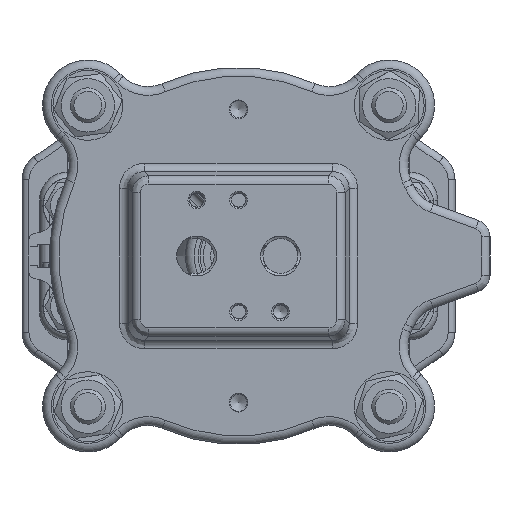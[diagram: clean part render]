
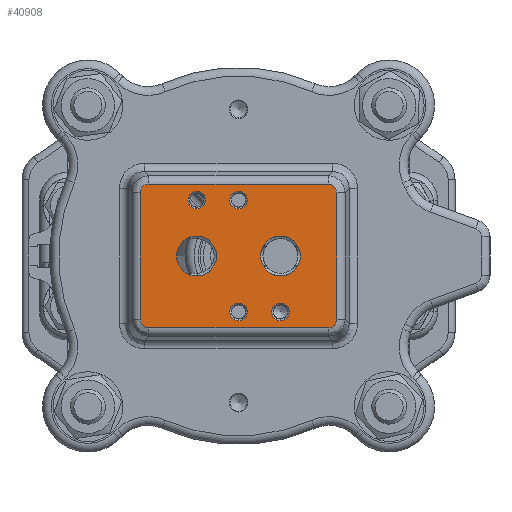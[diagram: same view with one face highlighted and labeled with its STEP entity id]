
A CAD part, front view. The second image highlights one B-rep face of the part: STEP entity #40908.
In plain terms, the highlighted planar face has unit normal (0, -1, 0).
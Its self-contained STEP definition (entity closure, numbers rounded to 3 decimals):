
#379=ELLIPSE('',#44609,2.673,2.5);
#380=ELLIPSE('',#44610,2.673,2.5);
#381=ELLIPSE('',#44611,2.673,2.5);
#382=ELLIPSE('',#44612,2.673,2.5);
#3316=LINE('',#69776,#5327);
#3317=LINE('',#69780,#5328);
#3318=LINE('',#69784,#5329);
#3319=LINE('',#69787,#5330);
#5327=VECTOR('',#52845,10.);
#5328=VECTOR('',#52848,10.);
#5329=VECTOR('',#52851,10.);
#5330=VECTOR('',#52854,10.);
#6966=FACE_BOUND('',#10571,.T.);
#6967=FACE_BOUND('',#10572,.T.);
#6968=FACE_BOUND('',#10573,.T.);
#6969=FACE_BOUND('',#10574,.T.);
#6970=FACE_BOUND('',#10575,.T.);
#6971=FACE_BOUND('',#10576,.T.);
#8012=FACE_OUTER_BOUND('',#10570,.T.);
#10570=EDGE_LOOP('',(#29873,#29874,#29875,#29876,#29877,#29878,#29879,#29880));
#10571=EDGE_LOOP('',(#29881,#29882));
#10572=EDGE_LOOP('',(#29883,#29884));
#10573=EDGE_LOOP('',(#29885));
#10574=EDGE_LOOP('',(#29886));
#10575=EDGE_LOOP('',(#29887));
#10576=EDGE_LOOP('',(#29888));
#13285=CIRCLE('',#44479,5.723);
#13286=CIRCLE('',#44480,5.723);
#13287=CIRCLE('',#44482,5.723);
#13288=CIRCLE('',#44483,5.723);
#13379=CIRCLE('',#44607,2.5);
#13380=CIRCLE('',#44613,2.5);
#13381=CIRCLE('',#44614,2.5);
#13382=CIRCLE('',#44615,2.5);
#16775=VERTEX_POINT('',#69130);
#16776=VERTEX_POINT('',#69132);
#16777=VERTEX_POINT('',#69136);
#16778=VERTEX_POINT('',#69138);
#16879=VERTEX_POINT('',#69768);
#16880=VERTEX_POINT('',#69772);
#16881=VERTEX_POINT('',#69773);
#16882=VERTEX_POINT('',#69775);
#16883=VERTEX_POINT('',#69777);
#16884=VERTEX_POINT('',#69779);
#16885=VERTEX_POINT('',#69781);
#16886=VERTEX_POINT('',#69783);
#16887=VERTEX_POINT('',#69785);
#16888=VERTEX_POINT('',#69788);
#16889=VERTEX_POINT('',#69790);
#16890=VERTEX_POINT('',#69792);
#21382=EDGE_CURVE('',#16776,#16775,#13285,.T.);
#21383=EDGE_CURVE('',#16775,#16776,#13286,.T.);
#21385=EDGE_CURVE('',#16778,#16777,#13287,.T.);
#21386=EDGE_CURVE('',#16777,#16778,#13288,.T.);
#21522=EDGE_CURVE('',#16879,#16879,#13379,.T.);
#21523=EDGE_CURVE('',#16880,#16881,#379,.T.);
#21524=EDGE_CURVE('',#16882,#16880,#3316,.T.);
#21525=EDGE_CURVE('',#16883,#16882,#380,.T.);
#21526=EDGE_CURVE('',#16884,#16883,#3317,.T.);
#21527=EDGE_CURVE('',#16885,#16884,#381,.T.);
#21528=EDGE_CURVE('',#16886,#16885,#3318,.T.);
#21529=EDGE_CURVE('',#16887,#16886,#382,.T.);
#21530=EDGE_CURVE('',#16881,#16887,#3319,.T.);
#21531=EDGE_CURVE('',#16888,#16888,#13380,.T.);
#21532=EDGE_CURVE('',#16889,#16889,#13381,.T.);
#21533=EDGE_CURVE('',#16890,#16890,#13382,.T.);
#29873=ORIENTED_EDGE('',*,*,#21523,.F.);
#29874=ORIENTED_EDGE('',*,*,#21524,.F.);
#29875=ORIENTED_EDGE('',*,*,#21525,.F.);
#29876=ORIENTED_EDGE('',*,*,#21526,.F.);
#29877=ORIENTED_EDGE('',*,*,#21527,.F.);
#29878=ORIENTED_EDGE('',*,*,#21528,.F.);
#29879=ORIENTED_EDGE('',*,*,#21529,.F.);
#29880=ORIENTED_EDGE('',*,*,#21530,.F.);
#29881=ORIENTED_EDGE('',*,*,#21382,.T.);
#29882=ORIENTED_EDGE('',*,*,#21383,.T.);
#29883=ORIENTED_EDGE('',*,*,#21385,.T.);
#29884=ORIENTED_EDGE('',*,*,#21386,.T.);
#29885=ORIENTED_EDGE('',*,*,#21531,.F.);
#29886=ORIENTED_EDGE('',*,*,#21532,.F.);
#29887=ORIENTED_EDGE('',*,*,#21533,.F.);
#29888=ORIENTED_EDGE('',*,*,#21522,.F.);
#37458=PLANE('',#44608);
#40908=ADVANCED_FACE('',(#8012,#6966,#6967,#6968,#6969,#6970,#6971),#37458,
 .F.);
#44479=AXIS2_PLACEMENT_3D('',#69133,#52555,#52556);
#44480=AXIS2_PLACEMENT_3D('',#69134,#52557,#52558);
#44482=AXIS2_PLACEMENT_3D('',#69139,#52562,#52563);
#44483=AXIS2_PLACEMENT_3D('',#69140,#52564,#52565);
#44607=AXIS2_PLACEMENT_3D('',#69770,#52839,#52840);
#44608=AXIS2_PLACEMENT_3D('',#69771,#52841,#52842);
#44609=AXIS2_PLACEMENT_3D('',#69774,#52843,#52844);
#44610=AXIS2_PLACEMENT_3D('',#69778,#52846,#52847);
#44611=AXIS2_PLACEMENT_3D('',#69782,#52849,#52850);
#44612=AXIS2_PLACEMENT_3D('',#69786,#52852,#52853);
#44613=AXIS2_PLACEMENT_3D('',#69789,#52855,#52856);
#44614=AXIS2_PLACEMENT_3D('',#69791,#52857,#52858);
#44615=AXIS2_PLACEMENT_3D('',#69793,#52859,#52860);
#52555=DIRECTION('center_axis',(0.,1.,0.));
#52556=DIRECTION('ref_axis',(1.,0.,0.));
#52557=DIRECTION('center_axis',(0.,1.,0.));
#52558=DIRECTION('ref_axis',(1.,0.,0.));
#52562=DIRECTION('center_axis',(0.,1.,0.));
#52563=DIRECTION('ref_axis',(1.,0.,0.));
#52564=DIRECTION('center_axis',(0.,1.,0.));
#52565=DIRECTION('ref_axis',(1.,0.,0.));
#52839=DIRECTION('center_axis',(0.,-1.,0.));
#52840=DIRECTION('ref_axis',(-1.,0.,0.));
#52841=DIRECTION('center_axis',(0.,1.,0.));
#52842=DIRECTION('ref_axis',(-1.,0.,0.));
#52843=DIRECTION('center_axis',(0.,1.,0.));
#52844=DIRECTION('ref_axis',(-0.707,0.,-0.707));
#52845=DIRECTION('',(-1.,0.,0.));
#52846=DIRECTION('center_axis',(0.,1.,0.));
#52847=DIRECTION('ref_axis',(0.707,0.,-0.707));
#52848=DIRECTION('',(0.,0.,-1.));
#52849=DIRECTION('center_axis',(0.,1.,0.));
#52850=DIRECTION('ref_axis',(0.707,0.,0.707));
#52851=DIRECTION('',(1.,0.,0.));
#52852=DIRECTION('center_axis',(0.,1.,0.));
#52853=DIRECTION('ref_axis',(-0.707,0.,0.707));
#52854=DIRECTION('',(0.,0.,1.));
#52855=DIRECTION('center_axis',(0.,-1.,0.));
#52856=DIRECTION('ref_axis',(-1.,0.,0.));
#52857=DIRECTION('center_axis',(0.,-1.,0.));
#52858=DIRECTION('ref_axis',(-1.,0.,0.));
#52859=DIRECTION('center_axis',(0.,-1.,0.));
#52860=DIRECTION('ref_axis',(-1.,0.,0.));
#69130=CARTESIAN_POINT('',(-17.723,-664.5,0.));
#69132=CARTESIAN_POINT('',(-6.278,-664.5,0.));
#69133=CARTESIAN_POINT('Origin',(-12.,-664.5,0.));
#69134=CARTESIAN_POINT('Origin',(-12.,-664.5,0.));
#69136=CARTESIAN_POINT('',(6.277,-664.5,0.));
#69138=CARTESIAN_POINT('',(17.722,-664.5,0.));
#69139=CARTESIAN_POINT('Origin',(12.,-664.5,0.));
#69140=CARTESIAN_POINT('Origin',(12.,-664.5,0.));
#69768=CARTESIAN_POINT('',(-9.5,-664.5,16.));
#69770=CARTESIAN_POINT('Origin',(-12.,-664.5,16.));
#69771=CARTESIAN_POINT('Origin',(0.,-664.5,
0.));
#69772=CARTESIAN_POINT('',(-25.667,-664.5,-20.582));
#69773=CARTESIAN_POINT('',(-28.082,-664.5,-18.167));
#69774=CARTESIAN_POINT('Origin',(-25.493,-664.5,-17.993));
#69775=CARTESIAN_POINT('',(25.667,-664.5,-20.582));
#69776=CARTESIAN_POINT('',(-15.,-664.5,-20.582));
#69777=CARTESIAN_POINT('',(28.082,-664.5,-18.167));
#69778=CARTESIAN_POINT('Origin',(25.493,-664.5,-17.993));
#69779=CARTESIAN_POINT('',(28.082,-664.5,18.167));
#69780=CARTESIAN_POINT('',(28.082,-664.5,-11.25));
#69781=CARTESIAN_POINT('',(25.667,-664.5,20.582));
#69782=CARTESIAN_POINT('Origin',(25.493,-664.5,17.993));
#69783=CARTESIAN_POINT('',(-25.667,-664.5,20.582));
#69784=CARTESIAN_POINT('',(15.,-664.5,20.582));
#69785=CARTESIAN_POINT('',(-28.082,-664.5,18.167));
#69786=CARTESIAN_POINT('Origin',(-25.493,-664.5,17.993));
#69787=CARTESIAN_POINT('',(-28.082,-664.5,11.25));
#69788=CARTESIAN_POINT('',(2.5,-664.5,16.));
#69789=CARTESIAN_POINT('Origin',(0.,-664.5,
16.));
#69790=CARTESIAN_POINT('',(14.5,-664.5,-16.));
#69791=CARTESIAN_POINT('Origin',(12.,-664.5,-16.));
#69792=CARTESIAN_POINT('',(2.5,-664.5,-16.));
#69793=CARTESIAN_POINT('Origin',(0.,-664.5,
-16.));
